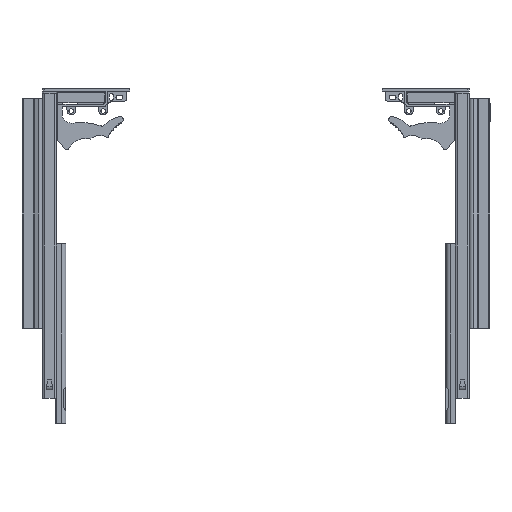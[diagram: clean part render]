
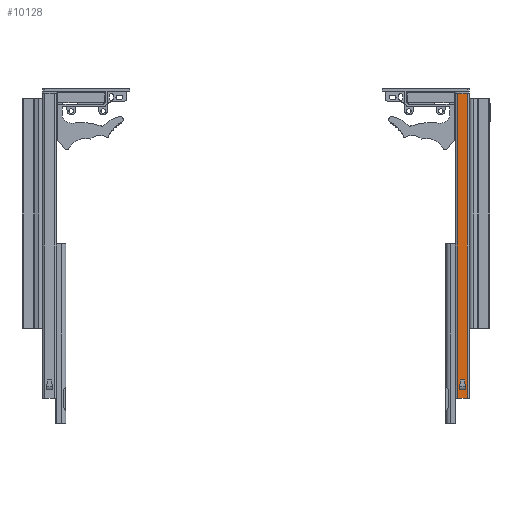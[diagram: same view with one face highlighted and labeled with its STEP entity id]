
A CAD part, front view. The second image highlights one B-rep face of the part: STEP entity #10128.
In plain terms, the highlighted planar face has unit normal (0, -1, 0).
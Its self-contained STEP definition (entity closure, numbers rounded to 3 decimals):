
#221=FACE_BOUND('',#1385,.T.);
#715=FACE_OUTER_BOUND('',#1384,.T.);
#1384=EDGE_LOOP('',(#7781,#7782,#7783,#7784));
#1385=EDGE_LOOP('',(#7785,#7786,#7787,#7788));
#2131=LINE('',#15694,#3123);
#2135=LINE('',#15701,#3127);
#2138=LINE('',#15733,#3130);
#2140=LINE('',#15739,#3132);
#2171=LINE('',#15826,#3163);
#2172=LINE('',#15829,#3164);
#2173=LINE('',#15831,#3165);
#2174=LINE('',#15832,#3166);
#3123=VECTOR('',#12689,10.);
#3127=VECTOR('',#12695,10.);
#3130=VECTOR('',#12700,10.);
#3132=VECTOR('',#12710,10.);
#3163=VECTOR('',#12793,10.);
#3164=VECTOR('',#12796,10.);
#3165=VECTOR('',#12797,10.);
#3166=VECTOR('',#12798,10.);
#4534=VERTEX_POINT('',#15691);
#4535=VERTEX_POINT('',#15693);
#4537=VERTEX_POINT('',#15699);
#4538=VERTEX_POINT('',#15731);
#4567=VERTEX_POINT('',#15822);
#4568=VERTEX_POINT('',#15824);
#4569=VERTEX_POINT('',#15828);
#4570=VERTEX_POINT('',#15830);
#5672=EDGE_CURVE('',#4535,#4534,#2131,.T.);
#5676=EDGE_CURVE('',#4534,#4537,#2135,.T.);
#5680=EDGE_CURVE('',#4537,#4538,#2138,.T.);
#5682=EDGE_CURVE('',#4538,#4535,#2140,.T.);
#5725=EDGE_CURVE('',#4567,#4568,#2171,.T.);
#5726=EDGE_CURVE('',#4567,#4569,#2172,.T.);
#5727=EDGE_CURVE('',#4570,#4568,#2173,.T.);
#5728=EDGE_CURVE('',#4569,#4570,#2174,.T.);
#7781=ORIENTED_EDGE('',*,*,#5726,.F.);
#7782=ORIENTED_EDGE('',*,*,#5725,.T.);
#7783=ORIENTED_EDGE('',*,*,#5727,.F.);
#7784=ORIENTED_EDGE('',*,*,#5728,.F.);
#7785=ORIENTED_EDGE('',*,*,#5672,.T.);
#7786=ORIENTED_EDGE('',*,*,#5676,.T.);
#7787=ORIENTED_EDGE('',*,*,#5680,.T.);
#7788=ORIENTED_EDGE('',*,*,#5682,.T.);
#9428=PLANE('',#10919);
#10128=ADVANCED_FACE('',(#715,#221),#9428,.T.);
#10919=AXIS2_PLACEMENT_3D('',#15827,#12794,#12795);
#12689=DIRECTION('',(0.,0.,-1.));
#12695=DIRECTION('',(-1.,0.,0.));
#12700=DIRECTION('',(0.,0.,1.));
#12710=DIRECTION('',(1.,0.,0.));
#12793=DIRECTION('',(0.,0.,-1.));
#12794=DIRECTION('center_axis',(0.,-1.,0.));
#12795=DIRECTION('ref_axis',(-1.,0.,0.));
#12796=DIRECTION('',(1.,0.,0.));
#12797=DIRECTION('',(-1.,0.,0.));
#12798=DIRECTION('',(0.,0.,-1.));
#15691=CARTESIAN_POINT('',(30.652,8.,-188.597));
#15693=CARTESIAN_POINT('',(30.652,8.,-187.097));
#15694=CARTESIAN_POINT('',(30.652,8.,-39.597));
#15699=CARTESIAN_POINT('',(24.034,8.,-188.597));
#15701=CARTESIAN_POINT('',(29.843,8.,-188.597));
#15731=CARTESIAN_POINT('',(24.034,8.,-187.097));
#15733=CARTESIAN_POINT('',(24.034,8.,-39.597));
#15739=CARTESIAN_POINT('',(29.843,8.,-187.097));
#15822=CARTESIAN_POINT('',(22.343,8.,107.903));
#15824=CARTESIAN_POINT('',(22.343,8.,-197.097));
#15826=CARTESIAN_POINT('',(22.343,8.,107.903));
#15827=CARTESIAN_POINT('Origin',(32.343,8.,107.903));
#15828=CARTESIAN_POINT('',(32.343,8.,107.903));
#15829=CARTESIAN_POINT('',(22.343,8.,107.903));
#15830=CARTESIAN_POINT('',(32.343,8.,-197.097));
#15831=CARTESIAN_POINT('',(22.343,8.,-197.097));
#15832=CARTESIAN_POINT('',(32.343,8.,107.903));
